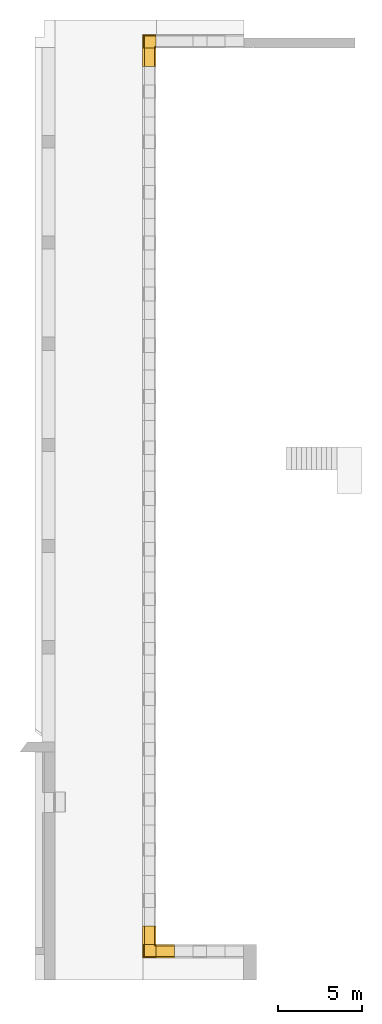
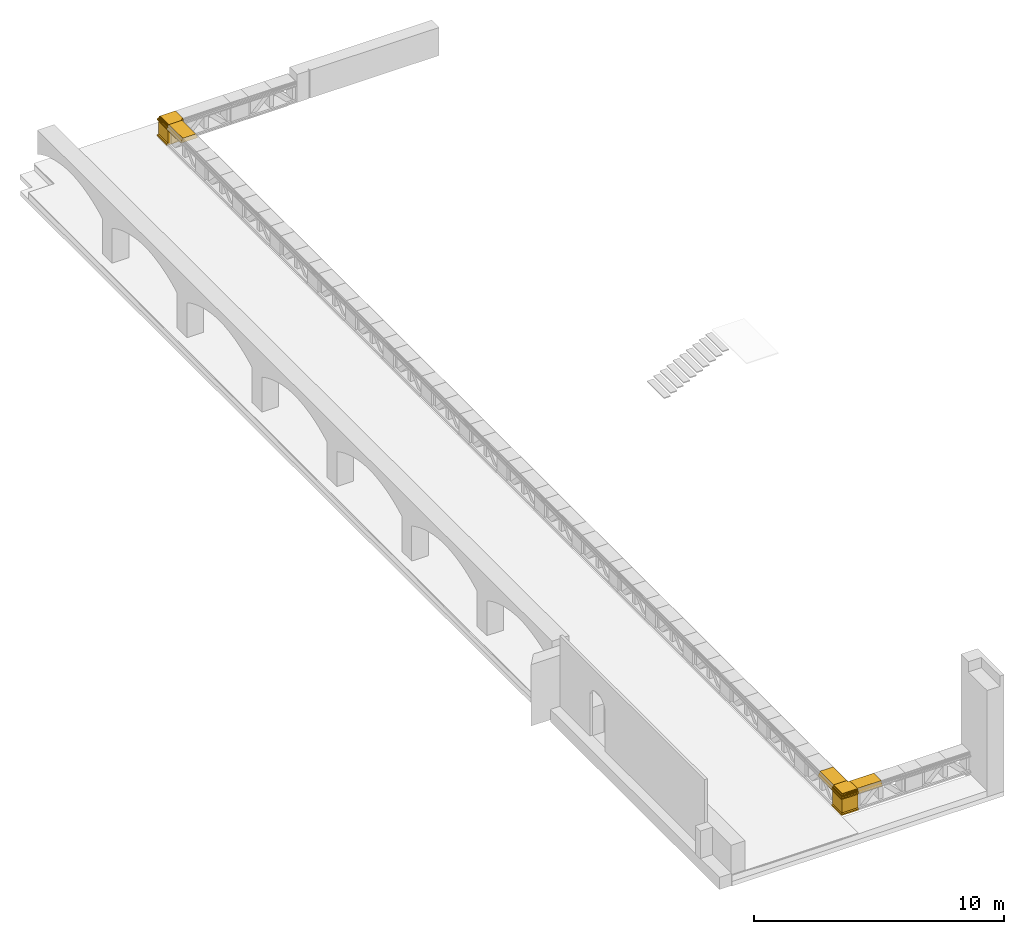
# One storey, part 9 of 9: 5 railings.
"""IFC2X3 building model written with IfcOpenShell, lengths in millimetres."""

from ifc_helpers import new_model, entity, si_unit, converted_unit, derived_unit, direction, frame, origin, place, context, subcontext, project, spatial, faceted_brep, source, transform, mapped, material, type_object, type_shapes, element, save


model = new_model("IFC2X3")

# Units and contexts
model_context = context("Model", 3, precision=0.01, world=origin(), true_north=direction((6.123031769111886e-17, 1.0)))
body_context = subcontext(model_context, "Body", "Model", "MODEL_VIEW")
ifc_project = project(units=[si_unit("LENGTHUNIT", "METRE", prefix="MILLI"), si_unit("AREAUNIT", "SQUARE_METRE"), si_unit("VOLUMEUNIT", "CUBIC_METRE"), converted_unit("PLANEANGLEUNIT", "DEGREE", entity("IfcPlaneAngleMeasure", 0.017453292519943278), si_unit("PLANEANGLEUNIT", "RADIAN"), dimensions=[0, 0, 0, 0, 0, 0, 0]), si_unit("MASSUNIT", "GRAM", prefix="KILO"), derived_unit("MASSDENSITYUNIT", [(si_unit("MASSUNIT", "GRAM", prefix="KILO"), 1), (si_unit("LENGTHUNIT", "METRE"), -3)]), derived_unit("IONCONCENTRATIONUNIT", [(si_unit("MASSUNIT", "GRAM", prefix="KILO"), 1), (si_unit("LENGTHUNIT", "METRE"), -3)]), derived_unit("MOMENTOFINERTIAUNIT", [(si_unit("LENGTHUNIT", "METRE"), 4)]), si_unit("TIMEUNIT", "SECOND"), si_unit("FREQUENCYUNIT", "HERTZ"), si_unit("THERMODYNAMICTEMPERATUREUNIT", "DEGREE_CELSIUS"), derived_unit("THERMALTRANSMITTANCEUNIT", [(si_unit("MASSUNIT", "GRAM", prefix="KILO"), 1), (si_unit("THERMODYNAMICTEMPERATUREUNIT", "KELVIN"), -1), (si_unit("TIMEUNIT", "SECOND"), -3)]), derived_unit("THERMALCONDUCTANCEUNIT", [(si_unit("MASSUNIT", "GRAM", prefix="KILO"), 1), (si_unit("THERMODYNAMICTEMPERATUREUNIT", "KELVIN"), -1), (si_unit("TIMEUNIT", "SECOND"), -3), (si_unit("LENGTHUNIT", "METRE"), 1)]), derived_unit("VOLUMETRICFLOWRATEUNIT", [(si_unit("LENGTHUNIT", "METRE", prefix="DECI"), 3), (si_unit("TIMEUNIT", "SECOND"), -1)]), derived_unit("MASSFLOWRATEUNIT", [(si_unit("MASSUNIT", "GRAM", prefix="KILO"), 1), (si_unit("TIMEUNIT", "SECOND"), -1)]), derived_unit("ROTATIONALFREQUENCYUNIT", [(si_unit("TIMEUNIT", "SECOND"), -1)]), si_unit("ELECTRICCURRENTUNIT", "AMPERE"), si_unit("ELECTRICVOLTAGEUNIT", "VOLT"), si_unit("POWERUNIT", "WATT"), si_unit("FORCEUNIT", "NEWTON", prefix="KILO"), si_unit("ILLUMINANCEUNIT", "LUX"), si_unit("LUMINOUSFLUXUNIT", "LUMEN"), si_unit("LUMINOUSINTENSITYUNIT", "CANDELA"), si_unit("ENERGYUNIT", "JOULE"), derived_unit("USERDEFINED", [(si_unit("MASSUNIT", "GRAM", prefix="KILO"), -1), (si_unit("LENGTHUNIT", "METRE"), -2), (si_unit("TIMEUNIT", "SECOND"), 3), (si_unit("LUMINOUSFLUXUNIT", "LUMEN"), 1)]), derived_unit("USERDEFINED", [(si_unit("MASSUNIT", "GRAM", prefix="KILO"), 1), (si_unit("TIMEUNIT", "SECOND"), -3), (si_unit("LENGTHUNIT", "METRE"), 3), (si_unit("ELECTRICCURRENTUNIT", "AMPERE"), -2)]), derived_unit("SOUNDPOWERUNIT", [(si_unit("MASSUNIT", "GRAM", prefix="KILO"), 1), (si_unit("TIMEUNIT", "SECOND"), -3), (si_unit("LENGTHUNIT", "METRE"), 2)]), derived_unit("SOUNDPRESSUREUNIT", [(si_unit("MASSUNIT", "GRAM", prefix="KILO"), 1), (si_unit("LENGTHUNIT", "METRE"), -1), (si_unit("TIMEUNIT", "SECOND"), -2)]), derived_unit("LINEARVELOCITYUNIT", [(si_unit("LENGTHUNIT", "METRE"), 1), (si_unit("TIMEUNIT", "SECOND"), -1)]), si_unit("PRESSUREUNIT", "PASCAL"), derived_unit("USERDEFINED", [(si_unit("MASSUNIT", "GRAM", prefix="KILO"), 1), (si_unit("LENGTHUNIT", "METRE"), -2), (si_unit("TIMEUNIT", "SECOND"), -2)]), derived_unit("LINEARFORCEUNIT", [(si_unit("MASSUNIT", "GRAM", prefix="KILO"), 1), (si_unit("TIMEUNIT", "SECOND"), -2)]), derived_unit("PLANARFORCEUNIT", [(si_unit("MASSUNIT", "GRAM", prefix="KILO"), 1), (si_unit("LENGTHUNIT", "METRE"), -1), (si_unit("TIMEUNIT", "SECOND"), -2)]), derived_unit("SPECIFICHEATCAPACITYUNIT", [(si_unit("THERMODYNAMICTEMPERATUREUNIT", "KELVIN"), -1), (si_unit("LENGTHUNIT", "METRE"), 2), (si_unit("TIMEUNIT", "SECOND"), -2)]), derived_unit("HEATFLUXDENSITYUNIT", [(si_unit("MASSUNIT", "GRAM", prefix="KILO"), 1), (si_unit("TIMEUNIT", "SECOND"), -3)]), derived_unit("HEATINGVALUEUNIT", [(si_unit("LENGTHUNIT", "METRE"), 2), (si_unit("TIMEUNIT", "SECOND"), -2)]), derived_unit("VAPORPERMEABILITYUNIT", [(si_unit("LENGTHUNIT", "METRE"), -1), (si_unit("TIMEUNIT", "SECOND"), 1)]), derived_unit("DYNAMICVISCOSITYUNIT", [(si_unit("MASSUNIT", "GRAM", prefix="KILO"), 1), (si_unit("TIMEUNIT", "SECOND"), -1), (si_unit("LENGTHUNIT", "METRE"), -1)]), derived_unit("THERMALEXPANSIONCOEFFICIENTUNIT", [(si_unit("THERMODYNAMICTEMPERATUREUNIT", "KELVIN"), -1)]), derived_unit("MODULUSOFELASTICITYUNIT", [(si_unit("MASSUNIT", "GRAM", prefix="KILO"), 1), (si_unit("LENGTHUNIT", "METRE"), -1), (si_unit("TIMEUNIT", "SECOND"), -2)]), derived_unit("ISOTHERMALMOISTURECAPACITYUNIT", [(si_unit("MASSUNIT", "GRAM", prefix="KILO"), -1), (si_unit("LENGTHUNIT", "METRE"), 3)]), derived_unit("MOISTUREDIFFUSIVITYUNIT", [(si_unit("TIMEUNIT", "SECOND"), -1), (si_unit("LENGTHUNIT", "METRE"), 2)]), derived_unit("MASSPERLENGTHUNIT", [(si_unit("MASSUNIT", "GRAM", prefix="KILO"), 1), (si_unit("LENGTHUNIT", "METRE"), -1)]), derived_unit("THERMALRESISTANCEUNIT", [(si_unit("MASSUNIT", "GRAM", prefix="KILO"), -1), (si_unit("TIMEUNIT", "SECOND"), 3), (si_unit("THERMODYNAMICTEMPERATUREUNIT", "KELVIN"), 1)]), derived_unit("ACCELERATIONUNIT", [(si_unit("LENGTHUNIT", "METRE"), 1), (si_unit("TIMEUNIT", "SECOND"), -2)]), derived_unit("ANGULARVELOCITYUNIT", [(si_unit("TIMEUNIT", "SECOND"), -1), (si_unit("PLANEANGLEUNIT", "RADIAN"), 1)]), derived_unit("LINEARSTIFFNESSUNIT", [(si_unit("MASSUNIT", "GRAM", prefix="KILO"), 1), (si_unit("TIMEUNIT", "SECOND"), -2)]), derived_unit("WARPINGCONSTANTUNIT", [(si_unit("LENGTHUNIT", "METRE"), 6)]), derived_unit("LINEARMOMENTUNIT", [(si_unit("MASSUNIT", "GRAM", prefix="KILO"), 1), (si_unit("LENGTHUNIT", "METRE"), 1), (si_unit("TIMEUNIT", "SECOND"), -2)]), derived_unit("TORQUEUNIT", [(si_unit("MASSUNIT", "GRAM", prefix="KILO"), 1), (si_unit("LENGTHUNIT", "METRE"), 2), (si_unit("TIMEUNIT", "SECOND"), -2)])], contexts=[model_context])

# Site, building, storey
site_placement = place(None, origin())
site = spatial("IfcSite", under=ifc_project, at=site_placement, Name="Default", CompositionType="ELEMENT")
building_placement = place(site_placement, origin())
building = spatial("IfcBuilding", under=site, at=building_placement, Name="Eesti Rahvusraamatukogu hoone renoveerimise projekteerimistööd", CompositionType="ELEMENT")
storey_placement = place(building_placement, frame((0.0, 0.0, 3100.0)))
storey = spatial("IfcBuildingStorey", under=building, at=storey_placement, Name="E-korpus 2. korrus", CompositionType="ELEMENT", Elevation=3100.0)

# Railings
ifc_material = material(Name="LUMION_facade concrete")
railing_type_1 = type_object("IfcRailingType", Name="Piirde element, nurgapost:Piirde element, nurgapost", PredefinedType="NOTDEFINED", material=ifc_material)
shared_shape_1 = source(origin(), body_context, "Body", "Brep", [
    faceted_brep([(-42590.0, 54782.87627987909, 3643.490660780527), (-42590.0, 54737.87627987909, 3675.0), (-42590.0, 54737.87627987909, 4370.0), (-42590.0, 54782.8762798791, 4370.0), (-42590.0, 54782.8762798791, 4420.882352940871), (-42590.0, 54762.87627987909, 4465.0), (-42590.0, 54732.87627987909, 4465.0), (-42590.0, 54732.87627987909, 4522.499999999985), (-42590.0, 54715.8762798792, 4560.0), (-42590.0, 54692.87627987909, 4580.0), (-42590.0, 54080.376279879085, 4580.0), (-42590.0, 54057.376279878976, 4560.0), (-42590.0, 54040.376279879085, 4522.499999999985), (-42590.0, 54040.376279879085, 4465.0), (-42590.0, 54010.376279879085, 4465.0), (-42590.0, 53990.376279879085, 4420.88235294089), (-42590.0, 53990.376279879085, 4370.0), (-42590.0, 54035.376279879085, 4370.0), (-42590.0, 54035.376279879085, 3675.0), (-42590.0, 53990.376279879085, 3643.490660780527), (-42590.0, 53990.376279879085, 3580.0), (-42590.0, 54782.87627987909, 3580.0), (-43382.49999999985, 54782.87627987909, 3643.490660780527), (-43337.49999999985, 54737.87627987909, 3675.0), (-43337.49999999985, 54737.87627987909, 4370.0), (-43337.49999999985, 53990.3762798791, 4370.0), (-43382.499999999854, 53990.376279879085, 4370.0), (-43382.499999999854, 54782.8762798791, 4370.0), (-43382.499999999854, 54782.8762798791, 4420.882352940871), (-43362.499999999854, 54762.87627987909, 4465.0), (-43362.499999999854, 53990.3762798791, 4465.0), (-43332.499999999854, 53990.376279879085, 4465.0), (-43332.499999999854, 54732.87627987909, 4465.0), (-43332.499999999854, 54732.87627987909, 4522.499999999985), (-43315.499999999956, 54715.8762798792, 4560.0), (-43292.499999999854, 54692.87627987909, 4580.0), (-43292.499999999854, 53990.3762798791, 4580.0), (-42680.0, 53990.376279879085, 4580.0), (-42680.0, 54080.376279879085, 4580.0), (-42657.0, 54057.376279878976, 4560.0), (-42640.0, 54040.376279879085, 4522.499999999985), (-42640.0, 54040.376279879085, 4465.0), (-42640.0, 53990.3762798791, 4465.0), (-42610.0, 53990.376279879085, 4465.0), (-42610.0, 54010.376279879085, 4465.0), (-42635.0, 53990.376279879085, 4370.0), (-42635.0, 54035.376279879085, 4370.0), (-42635.0, 54035.376279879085, 3675.0), (-43382.49999999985, 53990.376279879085, 3580.0), (-43382.49999999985, 54782.87627987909, 3580.0), (-43382.49999999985, 53990.3762798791, 3643.490660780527), (-43337.49999999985, 53990.376279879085, 3675.0), (-43382.499999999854, 53990.376279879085, 4420.882352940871), (-43332.499999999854, 53990.376279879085, 4522.499999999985), (-43315.499999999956, 53990.376279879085, 4560.0), (-42657.0, 53990.376279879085, 4560.0), (-42640.0, 53990.376279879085, 4522.499999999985), (-42635.0, 53990.376279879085, 3675.0)], [[[0, 1, 2, 3, 4, 5, 6, 7, 8, 9, 10, 11, 12, 13, 14, 15, 16, 17, 18, 19, 20, 21]], [[1, 0, 22, 23]], [[2, 1, 23, 24]], [[3, 2, 24, 25, 26, 27]], [[4, 3, 27, 28]], [[5, 4, 28, 29]], [[6, 5, 29, 30, 31, 32]], [[7, 6, 32, 33]], [[8, 7, 33, 34]], [[9, 8, 34, 35]], [[10, 9, 35, 36, 37, 38]], [[11, 10, 38, 39]], [[12, 11, 39, 40]], [[13, 12, 40, 41]], [[14, 13, 41, 42, 43, 44]], [[15, 14, 44]], [[17, 16, 45, 46]], [[18, 17, 46, 47]], [[19, 18, 47]], [[21, 20, 48, 49]], [[0, 21, 49, 22]], [[23, 22, 50, 51]], [[24, 23, 51, 25]], [[28, 27, 26, 52]], [[29, 28, 52, 30]], [[33, 32, 31, 53]], [[34, 33, 53, 54]], [[35, 34, 54, 36]], [[39, 38, 37, 55]], [[40, 39, 55, 56]], [[41, 40, 56, 42]], [[15, 44, 43]], [[47, 46, 45, 57]], [[19, 47, 57]], [[22, 49, 48, 50]], [[50, 48, 20, 19, 57, 45, 16, 15, 43, 42, 56, 55, 37, 36, 54, 53, 31, 30, 52, 26, 25, 51]]]),
])
type_shapes(railing_type_1, [shared_shape_1])
railing_1_placement = place(storey_placement, frame((0.0, 0.0, -3100.0)))
element("IfcRailing", 1, at=railing_1_placement, inside=storey, type_object=railing_type_1, material=ifc_material, Name="Piirde element, nurgapost:Piirde element, nurgapost", ObjectType="Piirde element, nurgapost:Piirde element, nurgapost", PredefinedType="NOTDEFINED", context=body_context, shape_type="MappedRepresentation", body=[
    mapped(shared_shape_1, transform((0.0, 0.0, 0.0), scale=1.0)),
])
railing_type_2 = type_object("IfcRailingType", Name="Piirde element, nurgapost 2:Piirde element, nurgapost", PredefinedType="NOTDEFINED", material=ifc_material)
shared_shape_2 = source(origin(), body_context, "Body", "Brep", [
    faceted_brep([(-42590.0, -12.499999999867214, 3643.490660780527), (-42590.0, -12.499999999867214, 3580.0), (-42590.0, 780.0, 3580.0), (-42590.0, 780.0, 3643.490660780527), (-42590.0, 735.0, 3675.0), (-42590.0, 735.0, 4370.0), (-42590.0, 780.0, 4370.0), (-42590.0, 780.0, 4420.88235294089), (-42590.0, 760.0, 4465.0), (-42590.0, 730.0, 4465.0), (-42590.0, 730.0, 4522.499999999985), (-42590.0, 713.0, 4560.0), (-42590.0, 690.0, 4580.0), (-42590.0, 77.50000000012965, 4580.0), (-42590.0, 54.50000000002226, 4560.0), (-42590.0, 37.50000000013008, 4522.499999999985), (-42590.0, 37.50000000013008, 4465.0), (-42590.0, 7.500000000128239, 4465.0), (-42590.0, -12.499999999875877, 4420.882352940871), (-42590.0, -12.499999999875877, 4370.0), (-42590.0, 32.50000000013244, 4370.0), (-42590.0, 32.500000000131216, 3675.0), (-43337.49999999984, 32.50000000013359, 3675.0), (-43382.49999999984, -12.499999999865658, 3643.490660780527), (-43337.49999999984, 32.500000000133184, 4370.0), (-43382.49999999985, -12.499999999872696, 4370.0), (-43382.49999999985, 780.0, 4370.0), (-43337.49999999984, 780.0, 4370.0), (-43382.49999999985, -12.499999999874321, 4420.882352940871), (-43362.49999999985, 7.500000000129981, 4465.0), (-43332.49999999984, 37.50000000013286, 4465.0), (-43332.49999999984, 780.0, 4465.0), (-43362.49999999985, 780.0, 4465.0), (-43332.49999999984, 37.500000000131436, 4522.499999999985), (-43315.49999999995, 54.500000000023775, 4560.0), (-43292.49999999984, 77.50000000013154, 4580.0), (-42680.0, 690.0, 4580.0), (-42680.0, 780.0, 4580.0), (-43292.49999999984, 780.0, 4580.0), (-42657.0, 713.0, 4560.0), (-42640.0, 730.0, 4522.499999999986), (-42640.0, 730.0, 4465.0), (-42610.0, 760.0, 4465.0), (-42610.0, 780.0, 4465.0), (-42640.0, 780.0, 4465.0), (-42635.0, 735.0, 4370.0), (-42635.0, 780.0, 4370.0), (-42635.0, 735.0, 3675.0), (-43382.49999999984, -12.499999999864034, 3580.0), (-43382.49999999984, 780.0, 3580.0), (-43337.49999999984, 780.0, 3675.0), (-43382.49999999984, 780.0, 3643.490660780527), (-43382.49999999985, 780.0, 4420.882352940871), (-43332.49999999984, 780.0, 4522.499999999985), (-43315.49999999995, 780.0, 4560.0), (-42657.0, 780.0, 4560.0), (-42640.0, 780.0, 4522.499999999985), (-42635.0, 780.0, 3675.0)], [[[0, 1, 2, 3, 4, 5, 6, 7, 8, 9, 10, 11, 12, 13, 14, 15, 16, 17, 18, 19, 20, 21]], [[0, 21, 22, 23]], [[21, 20, 24, 22]], [[20, 19, 25, 26, 27, 24]], [[19, 18, 28, 25]], [[18, 17, 29, 28]], [[17, 16, 30, 31, 32, 29]], [[16, 15, 33, 30]], [[15, 14, 34, 33]], [[14, 13, 35, 34]], [[13, 12, 36, 37, 38, 35]], [[12, 11, 39, 36]], [[11, 10, 40, 39]], [[10, 9, 41, 40]], [[9, 8, 42, 43, 44, 41]], [[8, 7, 42]], [[6, 5, 45, 46]], [[5, 4, 47, 45]], [[4, 3, 47]], [[2, 1, 48, 49]], [[1, 0, 23, 48]], [[23, 22, 50, 51]], [[22, 24, 27, 50]], [[25, 28, 52, 26]], [[28, 29, 32, 52]], [[30, 33, 53, 31]], [[33, 34, 54, 53]], [[34, 35, 38, 54]], [[36, 39, 55, 37]], [[39, 40, 56, 55]], [[40, 41, 44, 56]], [[42, 7, 43]], [[45, 47, 57, 46]], [[47, 3, 57]], [[48, 23, 51, 49]], [[51, 50, 27, 26, 52, 32, 31, 53, 54, 38, 37, 55, 56, 44, 43, 7, 6, 46, 57, 3, 2, 49]]]),
])
type_shapes(railing_type_2, [shared_shape_2])
railing_2_placement = place(storey_placement, frame((0.0, 0.0, -3100.0)))
element("IfcRailing", 2, at=railing_2_placement, inside=storey, type_object=railing_type_2, material=ifc_material, Name="Piirde element, nurgapost 2:Piirde element, nurgapost", ObjectType="Piirde element, nurgapost 2:Piirde element, nurgapost", PredefinedType="NOTDEFINED", context=body_context, shape_type="MappedRepresentation", body=[
    mapped(shared_shape_2, transform((0.0, 0.0, 0.0), scale=1.0)),
])
railing_type_3 = type_object("IfcRailingType", Name="PR3 mütsi moodul_Nurk 90:PR3.1N - laius 790mm, pikkus1100mm", PredefinedType="NOTDEFINED", material=ifc_material)
shared_shape_3 = source(origin(), body_context, "Body", "Brep", [
    faceted_brep([(0.0, -395.0, 0.0), (0.0, -301.50197608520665, 210.0), (0.0, 301.50197608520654, 210.0), (0.0, 395.0, 0.0), (1901.5564171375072, 395.0, 0.0), (1111.5564171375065, -395.0, 0.0), (1205.0544410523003, -301.50197608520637, 210.0), (1808.0583932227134, 301.50197608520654, 210.0)], [[[0, 1, 2, 3]], [[0, 3, 4, 5]], [[2, 1, 6, 7]], [[3, 2, 7, 4]], [[1, 0, 5, 6]], [[5, 4, 7, 6]]]),
])
type_shapes(railing_type_3, [shared_shape_3])
railing_3_placement = place(storey_placement, frame((-42990.0, 52880.0, 1270.0), z_axis=(0.0, 0.0, 1.0), x_axis=(0.0, 1.0, 0.0)))
element("IfcRailing", 3, at=railing_3_placement, inside=storey, type_object=railing_type_3, material=ifc_material, Name="PR3 mütsi moodul_Nurk 90:PR3.1N - laius 790mm, pikkus1100mm", ObjectType="PR3 mütsi moodul_Nurk 90:PR3.1N - laius 790mm, pikkus1100mm", PredefinedType="NOTDEFINED", context=body_context, shape_type="MappedRepresentation", body=[
    mapped(shared_shape_3, transform((0.0, 0.0, 0.0), scale=1.0)),
])
railing_type_4 = type_object("IfcRailingType", Name="PR3 mütsi moodul_Nurk 90:PR3.1N - laius 790mm, pikkus1100mm", PredefinedType="NOTDEFINED", material=ifc_material)
shared_shape_4 = source(origin(), body_context, "Body", "Brep", [
    faceted_brep([(0.0, 395.0, 0.0), (0.0, -395.0, 0.0), (0.0, -301.50197608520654, 210.0), (0.0, 301.50197608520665, 210.0), (1101.1801372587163, 395.0, 0.0), (1891.1801372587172, -395.0, 0.0), (1797.6821133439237, -301.5019760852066, 210.0), (1194.6781611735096, 301.50197608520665, 210.0)], [[[0, 1, 2, 3]], [[0, 4, 5, 1]], [[2, 6, 7, 3]], [[1, 5, 6, 2]], [[3, 7, 4, 0]], [[4, 7, 6, 5]]]),
])
type_shapes(railing_type_4, [shared_shape_4])
railing_4_placement = place(storey_placement, frame((-42990.0, 1880.0, 1270.0), z_axis=(0.0, 0.0, 1.0), x_axis=(0.0, -1.0, 0.0)))
element("IfcRailing", 4, at=railing_4_placement, inside=storey, type_object=railing_type_4, material=ifc_material, Name="PR3 mütsi moodul_Nurk 90:PR3.1N - laius 790mm, pikkus1100mm", ObjectType="PR3 mütsi moodul_Nurk 90:PR3.1N - laius 790mm, pikkus1100mm", PredefinedType="NOTDEFINED", context=body_context, shape_type="MappedRepresentation", body=[
    mapped(shared_shape_4, transform((0.0, 0.0, 0.0), scale=1.0)),
])
railing_type_5 = type_object("IfcRailingType", Name="PR3 mütsi moodul_Nurk 90:PR3.1N - laius 790mm, pikkus1100mm", PredefinedType="NOTDEFINED", material=ifc_material)
shared_shape_5 = source(origin(), body_context, "Body", "Brep", [
    faceted_brep([(0.0, -395.0, 0.0), (0.0, -301.50197608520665, 210.0), (0.0, 301.50197608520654, 210.0), (0.0, 395.0, 0.0), (1891.1801372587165, 395.0, 0.0), (1101.1801372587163, -395.0, 0.0), (1194.6781611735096, -301.5019760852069, 210.0), (1797.6821133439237, 301.50197608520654, 210.0)], [[[0, 1, 2, 3]], [[0, 3, 4, 5]], [[2, 1, 6, 7]], [[3, 2, 7, 4]], [[1, 0, 5, 6]], [[5, 4, 7, 6]]]),
])
type_shapes(railing_type_5, [shared_shape_5])
railing_5_placement = place(storey_placement, frame((-41490.0, 385.0, 1270.0), z_axis=(0.0, 0.0, 1.0), x_axis=(-1.0, 0.0, 0.0)))
element("IfcRailing", 5, at=railing_5_placement, inside=storey, type_object=railing_type_5, material=ifc_material, Name="PR3 mütsi moodul_Nurk 90:PR3.1N - laius 790mm, pikkus1100mm", ObjectType="PR3 mütsi moodul_Nurk 90:PR3.1N - laius 790mm, pikkus1100mm", PredefinedType="NOTDEFINED", context=body_context, shape_type="MappedRepresentation", body=[
    mapped(shared_shape_5, transform((0.0, 0.0, 0.0), scale=1.0)),
])

save(model, "model.ifc")
